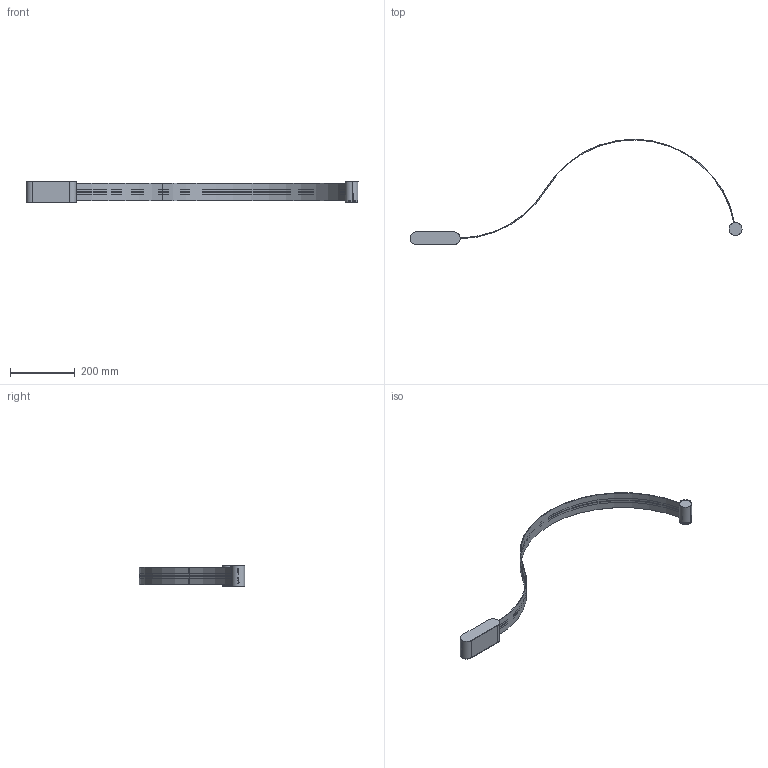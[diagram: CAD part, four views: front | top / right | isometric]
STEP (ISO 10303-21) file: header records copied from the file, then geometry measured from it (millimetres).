
FILE_DESCRIPTION((''),'2;1');
FILE_NAME('P136001_ASS_NAS_SW0001','2025-05-20T15:15:20',('elena.baldelli'),(''),'CREO PARAMETRIC BY PTC INC, 2020354','CREO PARAMETRIC BY PTC INC, 2020354','');
FILE_SCHEMA(('CONFIG_CONTROL_DESIGN'));
Length unit declared in the file: millimetre
Products named in the file (1): P136001_ASS_NAS_SW0001
Bounding box: 1026.17 x 326.63 x 67 mm (x, y, z)
Surface area: 207282.4 mm2 (no closed solid volume)
Topology: 0 solids, 56 shells, 170 faces, 690 edges, 556 vertices
Faces by surface type: extrusion 67, cylinder 56, plane 32, cone 15
Entity records: 11233 total; most frequent: CARTESIAN_POINT 6292, ORIENTED_EDGE 914, DIRECTION 751, EDGE_CURVE 690, VERTEX_POINT 556, B_SPLINE_CURVE_WITH_KNOTS 387, VECTOR 329, LINE 262
